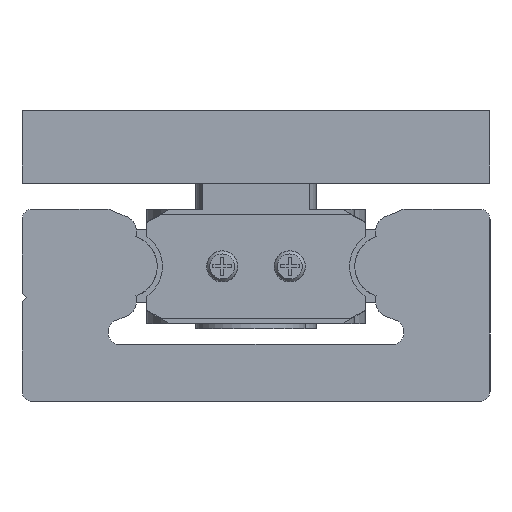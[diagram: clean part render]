
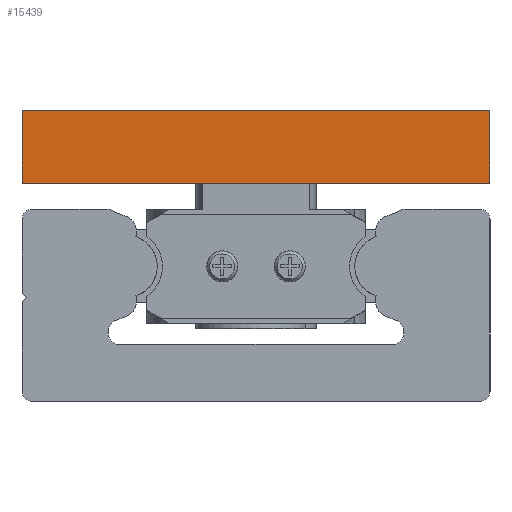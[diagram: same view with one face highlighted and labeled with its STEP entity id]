
A CAD part, left-side view. The second image highlights one B-rep face of the part: STEP entity #15439.
In plain terms, the highlighted planar face has unit normal (-1, 0, 0).
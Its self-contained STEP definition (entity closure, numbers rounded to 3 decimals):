
#15235=CARTESIAN_POINT('',(0.0,-22.5,15.0));
#15236=VERTEX_POINT('',#15235);
#15243=CARTESIAN_POINT('',(0.0,-22.5,8.));
#15244=VERTEX_POINT('',#15243);
#15245=CARTESIAN_POINT('',(0.0,-22.5,15.0));
#15246=DIRECTION('',(0.0,0.0,-1.0));
#15247=VECTOR('',#15246,7.);
#15248=LINE('',#15245,#15247);
#15249=EDGE_CURVE('',#15236,#15244,#15248,.T.);
#15279=CARTESIAN_POINT('',(0.0,22.5,15.));
#15280=VERTEX_POINT('',#15279);
#15287=CARTESIAN_POINT('',(0.0,22.5,15.));
#15288=DIRECTION('',(0.0,-1.0,0.0));
#15289=VECTOR('',#15288,45.0);
#15290=LINE('',#15287,#15289);
#15291=EDGE_CURVE('',#15280,#15236,#15290,.T.);
#15352=CARTESIAN_POINT('',(0.0,22.5,8.));
#15353=VERTEX_POINT('',#15352);
#15360=CARTESIAN_POINT('',(0.0,22.5,8.));
#15361=DIRECTION('',(0.0,0.0,1.0));
#15362=VECTOR('',#15361,7.0);
#15363=LINE('',#15360,#15362);
#15364=EDGE_CURVE('',#15353,#15280,#15363,.T.);
#15388=CARTESIAN_POINT('',(0.0,-22.5,8.));
#15389=DIRECTION('',(0.0,1.0,0.0));
#15390=VECTOR('',#15389,45.0);
#15391=LINE('',#15388,#15390);
#15392=EDGE_CURVE('',#15244,#15353,#15391,.T.);
#15428=CARTESIAN_POINT('',(0.0,0.,11.5));
#15429=DIRECTION('',(1.0,0.0,0.0));
#15430=DIRECTION('',(0.0,0.0,-1.0));
#15431=AXIS2_PLACEMENT_3D('',#15428,#15429,#15430);
#15432=PLANE('',#15431);
#15433=ORIENTED_EDGE('',*,*,#15392,.F.);
#15434=ORIENTED_EDGE('',*,*,#15249,.F.);
#15435=ORIENTED_EDGE('',*,*,#15291,.F.);
#15436=ORIENTED_EDGE('',*,*,#15364,.F.);
#15437=EDGE_LOOP('',(#15433,#15434,#15435,#15436));
#15438=FACE_OUTER_BOUND('',#15437,.T.);
#15439=ADVANCED_FACE('',(#15438),#15432,.F.);
